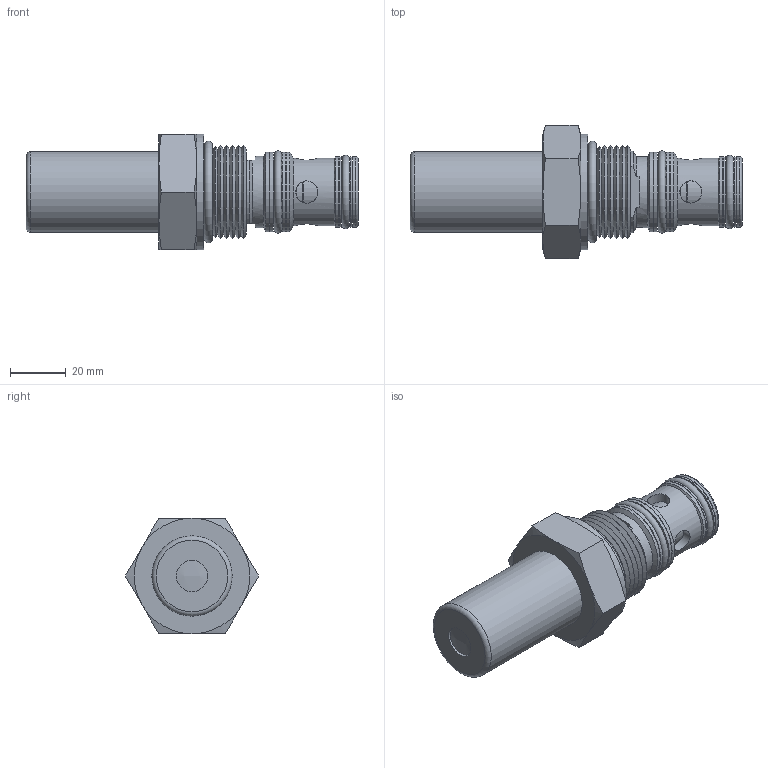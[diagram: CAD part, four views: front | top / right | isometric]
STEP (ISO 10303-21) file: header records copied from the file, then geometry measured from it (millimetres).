
FILE_DESCRIPTION((''),'2;1');
FILE_NAME('Q:\Delta CADD Insertion Codes\3D Solid models\Mechanical Valves\DWG\SLPWB0T.stp','2012-12-06T13:27:11',('Dan'),(''),'Autodesk Inventor 2012','Autodesk Inventor 2012','');
FILE_SCHEMA(('AUTOMOTIVE_DESIGN { 1 0 10303 214 1 1 1 1 }'));
Length unit declared in the file: inch
Products named in the file (9): Assembly24; Part334; Part336; Part338; Part340; Part342; Part344; Part346; Part348
Assembly tree (8 placements, depth 2):
  Assembly24
    Part334
    Part336
    Part338
    Part340
    Part342
    Part344
    Part346
    Part348
Bounding box: 118.62 x 47.66 x 41.27 mm (x, y, z)
Volume: 83931 mm3; surface area: 21869.9 mm2
Topology: 8 solids, 8 shells, 108 faces, 215 edges, 129 vertices
Faces by surface type: plane 34, cylinder 34, cone 34, torus 5, sphere 1
Full cylindrical faces by diameter (mm): 7.925 x4, 9.525 x2, 10.109 x1, 11.151 x1, 15.875 x1, 16.612 x2, 17.374 x1, 17.479 x1, 21.006 x1, 21.031 x2, 24.13 x1, 24.181 x1, 24.206 x2, 25.349 x4, 25.4 x1, 28.524 x4, 28.702 x1, 30.328 x1, 41.275 x1
Entity records: 2976 total; most frequent: CARTESIAN_POINT 719, DIRECTION 464, ORIENTED_EDGE 304, AXIS2_PLACEMENT_3D 223, EDGE_LOOP 193, EDGE_CURVE 152, VERTEX_POINT 122, FACE_OUTER_BOUND 108
